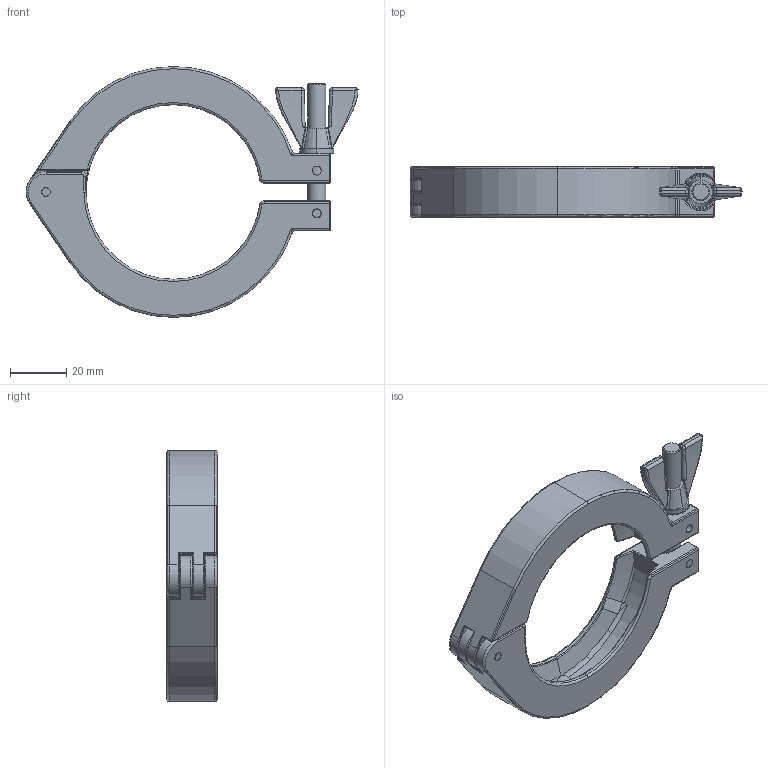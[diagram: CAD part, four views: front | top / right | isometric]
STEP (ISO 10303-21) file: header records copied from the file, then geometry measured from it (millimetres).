
FILE_DESCRIPTION(/* description */ ('Alibre Inc.'),/* implementation_level */ '2;1');
FILE_NAME(/* name */ 'export0',/* time_stamp */ '2015-02-18T13:29:21-08:00',/* author */ (''),/* organization */ (''),/* preprocessor_version */ 'ST-DEVELOPER v14',/* originating_system */ 'Alibre',/* authorisation */ '');
FILE_SCHEMA (('CONFIG_CONTROL_DESIGN'));
Length unit declared in the file: inch
Products named in the file (1): ID_1
Bounding box: 117.63 x 17.78 x 88.9 mm (x, y, z)
Volume: 43317 mm3; surface area: 22483.6 mm2
Topology: 1 solids, 1 shells, 550 faces, 1381 edges, 807 vertices
Faces by surface type: cylinder 190, bspline 116, torus 106, plane 79, sphere 34, cone 25
Full cylindrical faces by diameter (mm): 3.251 x2, 5.08 x2, 6.35 x2
Entity records: 49331 total; most frequent: CARTESIAN_POINT 37901, ORIENTED_EDGE 2666, DIRECTION 1911, EDGE_CURVE 1333, AXIS2_PLACEMENT_3D 872, VERTEX_POINT 804, EDGE_LOOP 579, FACE_BOUND 579
